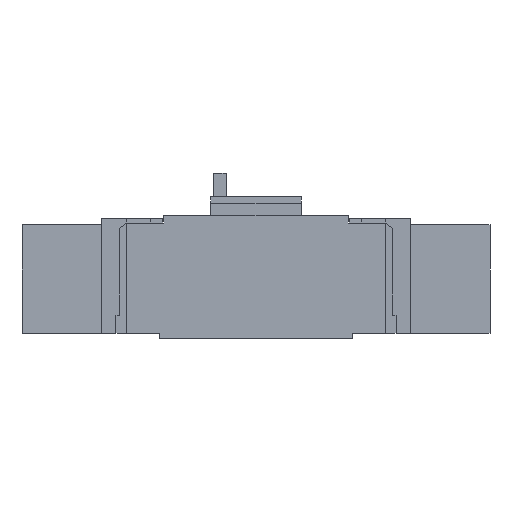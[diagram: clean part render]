
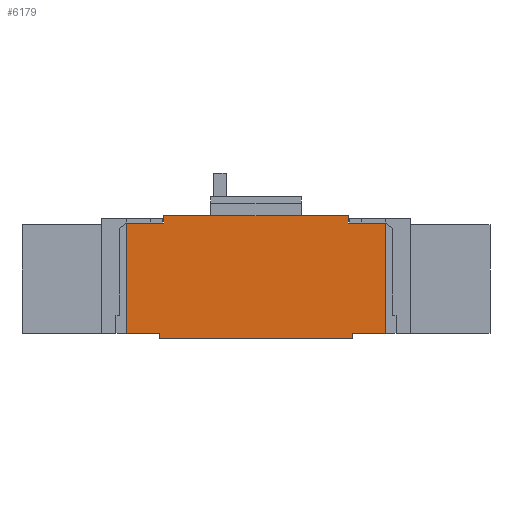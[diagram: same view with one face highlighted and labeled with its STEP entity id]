
A CAD part, left-side view. The second image highlights one B-rep face of the part: STEP entity #6179.
In plain terms, the highlighted planar face has unit normal (-1, 0, 0).
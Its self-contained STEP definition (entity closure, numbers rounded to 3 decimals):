
#2649 = VERTEX_POINT( '', #7601 );
#2721 = EDGE_CURVE( '', #2749, #4837, #7681, .T. );
#2749 = VERTEX_POINT( '', #7716 );
#3191 = EDGE_CURVE( '', #5959, #4837, #8200, .T. );
#3907 = VERTEX_POINT( '', #8980 );
#4041 = EDGE_CURVE( '', #5173, #5959, #9127, .T. );
#4049 = VERTEX_POINT( '', #9135 );
#4499 = VERTEX_POINT( '', #9629 );
#4837 = VERTEX_POINT( '', #9998 );
#4883 = EDGE_CURVE( '', #6145, #2749, #10048, .T. );
#5173 = VERTEX_POINT( '', #10375 );
#5271 = VERTEX_POINT( '', #10486 );
#5283 = EDGE_CURVE( '', #6097, #5271, #10498, .T. );
#5457 = EDGE_CURVE( '', #3907, #2649, #10686, .T. );
#5523 = EDGE_CURVE( '', #6145, #6003, #10761, .T. );
#5861 = EDGE_CURVE( '', #5173, #4049, #11129, .T. );
#5959 = VERTEX_POINT( '', #11239 );
#6003 = VERTEX_POINT( '', #11287 );
#6061 = EDGE_CURVE( '', #2649, #6097, #11350, .T. );
#6097 = VERTEX_POINT( '', #11389 );
#6145 = VERTEX_POINT( '', #11441 );
#6169 = EDGE_CURVE( '', #3907, #6003, #11466, .T. );
#6179 = ADVANCED_FACE( '', ( #11478 ), #11479, .F. );
#6235 = EDGE_CURVE( '', #5271, #4499, #11541, .T. );
#6601 = EDGE_CURVE( '', #4499, #4049, #11933, .T. );
#7601 = CARTESIAN_POINT( '', ( -45., 14., 3. ) );
#7681 = LINE( '', #13179, #13180 );
#7716 = CARTESIAN_POINT( '', ( -45., 16.5, 68. ) );
#8200 = LINE( '', #13899, #13900 );
#8980 = CARTESIAN_POINT( '', ( -45., -4., 3. ) );
#9127 = LINE( '', #15212, #15213 );
#9135 = CARTESIAN_POINT( '', ( -45., 139., 3. ) );
#9629 = CARTESIAN_POINT( '', ( -45., 121., 3. ) );
#9998 = CARTESIAN_POINT( '', ( -45., 118.5, 68. ) );
#10048 = LINE( '', #16509, #16510 );
#10375 = CARTESIAN_POINT( '', ( -45., 139., 64. ) );
#10486 = CARTESIAN_POINT( '', ( -45., 121., 0. ) );
#10498 = LINE( '', #17129, #17130 );
#10686 = LINE( '', #17404, #17405 );
#10761 = LINE( '', #17500, #17501 );
#11129 = LINE( '', #18017, #18018 );
#11239 = CARTESIAN_POINT( '', ( -45., 118.5, 64. ) );
#11287 = CARTESIAN_POINT( '', ( -45., -4., 64. ) );
#11350 = LINE( '', #18301, #18302 );
#11389 = CARTESIAN_POINT( '', ( -45., 14., 0. ) );
#11441 = CARTESIAN_POINT( '', ( -45., 16.5, 64. ) );
#11466 = LINE( '', #18453, #18454 );
#11478 = FACE_OUTER_BOUND( '', #18468, .T. );
#11479 = PLANE( '', #18469 );
#11541 = LINE( '', #18548, #18549 );
#11933 = LINE( '', #19126, #19127 );
#13179 = CARTESIAN_POINT( '', ( -45., 118.5, 68. ) );
#13180 = VECTOR( '', #20651, 1. );
#13899 = CARTESIAN_POINT( '', ( -45., 118.5, 64. ) );
#13900 = VECTOR( '', #21208, 1. );
#15212 = CARTESIAN_POINT( '', ( -45., 142., 64. ) );
#15213 = VECTOR( '', #22155, 1. );
#16509 = CARTESIAN_POINT( '', ( -45., 16.5, 64. ) );
#16510 = VECTOR( '', #23165, 1. );
#17129 = CARTESIAN_POINT( '', ( -45., 14., 0. ) );
#17130 = VECTOR( '', #23727, 1. );
#17404 = CARTESIAN_POINT( '', ( -45., -10., 3. ) );
#17405 = VECTOR( '', #23895, 1. );
#17500 = CARTESIAN_POINT( '', ( -45., 142., 64. ) );
#17501 = VECTOR( '', #24007, 1. );
#18017 = CARTESIAN_POINT( '', ( -45., 139., 0. ) );
#18018 = VECTOR( '', #24438, 1. );
#18301 = CARTESIAN_POINT( '', ( -45., 14., 3. ) );
#18302 = VECTOR( '', #24664, 1. );
#18453 = CARTESIAN_POINT( '', ( -45., -4., 0. ) );
#18454 = VECTOR( '', #24761, 1. );
#18468 = EDGE_LOOP( '', ( #24787, #24788, #24789, #24790, #24791, #24792, #24793, #24794, #24795, #24796, #24797, #24798 ) );
#18469 = AXIS2_PLACEMENT_3D( '', #24799, #24800, #24801 );
#18548 = CARTESIAN_POINT( '', ( -45., 121., 0. ) );
#18549 = VECTOR( '', #24862, 1. );
#19126 = CARTESIAN_POINT( '', ( -45., 121., 3. ) );
#19127 = VECTOR( '', #25212, 1. );
#20651 = DIRECTION( '', ( 0., 1., 0. ) );
#21208 = DIRECTION( '', ( 0., 0., 1. ) );
#22155 = DIRECTION( '', ( 0., -1., 0. ) );
#23165 = DIRECTION( '', ( 0., 0., 1. ) );
#23727 = DIRECTION( '', ( 0., 1., 0. ) );
#23895 = DIRECTION( '', ( 0., 1., 0. ) );
#24007 = DIRECTION( '', ( 0., -1., 0. ) );
#24438 = DIRECTION( '', ( 0., 0., -1. ) );
#24664 = DIRECTION( '', ( 0., 0., -1. ) );
#24761 = DIRECTION( '', ( 0., 0., 1. ) );
#24787 = ORIENTED_EDGE( '', *, *, #5861, .T. );
#24788 = ORIENTED_EDGE( '', *, *, #6601, .F. );
#24789 = ORIENTED_EDGE( '', *, *, #6235, .F. );
#24790 = ORIENTED_EDGE( '', *, *, #5283, .F. );
#24791 = ORIENTED_EDGE( '', *, *, #6061, .F. );
#24792 = ORIENTED_EDGE( '', *, *, #5457, .F. );
#24793 = ORIENTED_EDGE( '', *, *, #6169, .T. );
#24794 = ORIENTED_EDGE( '', *, *, #5523, .F. );
#24795 = ORIENTED_EDGE( '', *, *, #4883, .T. );
#24796 = ORIENTED_EDGE( '', *, *, #2721, .T. );
#24797 = ORIENTED_EDGE( '', *, *, #3191, .F. );
#24798 = ORIENTED_EDGE( '', *, *, #4041, .F. );
#24799 = CARTESIAN_POINT( '', ( -45., 0., 0. ) );
#24800 = DIRECTION( '', ( 1., 0., 0. ) );
#24801 = DIRECTION( '', ( 0., 0., -1. ) );
#24862 = DIRECTION( '', ( 0., 0., 1. ) );
#25212 = DIRECTION( '', ( 0., 1., 0. ) );
